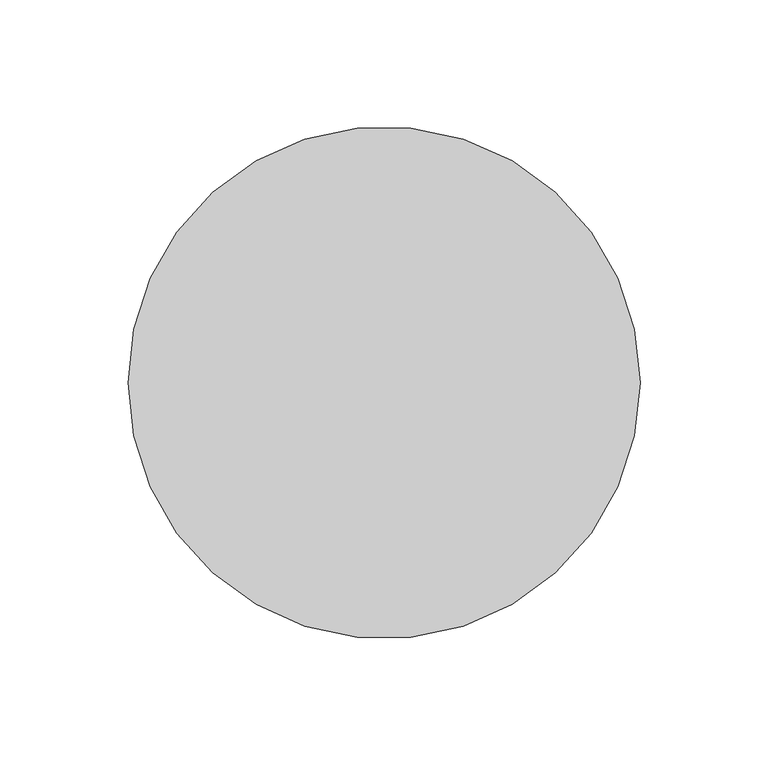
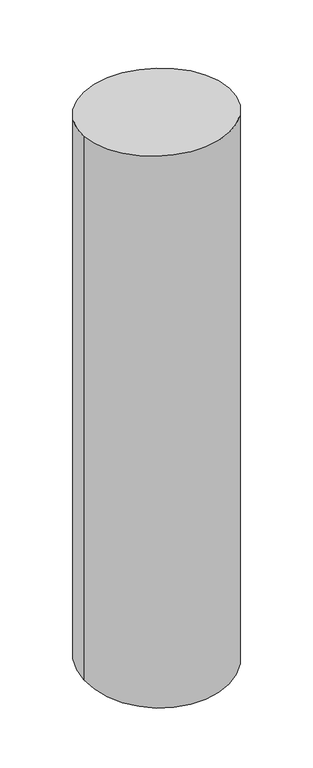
"""IFC4 building model written with IfcOpenShell, lengths in millimetres: member geometry, 矩形竖梃 : 圆瓦."""

import ifcopenshell
import ifcopenshell.guid

model = None  # the IFC model being written
_history = None  # IfcOwnerHistory: only IFC2X3 demands one
_inside = {}  # id of a spatial element -> (the spatial element, [elements in it])
_under = {}  # id of a project, library or spatial element -> (it, [spatial elements below it])
_declared = {}  # id of a project -> (the project, [libraries it declares])
_typed = {}  # id of a type object -> (the type object, [elements of that type])
_made_of = {}  # id of a material, layer set ... -> (it, [elements and type objects made of it])


def new_model(schema):
    """Start an empty IFC model of exactly this schema.

    Asked for "IFC4X3", IfcOpenShell would pick the latest addendum, in which some entities
    have other attributes; the version numbers below select the first issue.
    IFC2X3 requires an IfcOwnerHistory on every rooted entity: one is made here for all.
    """
    global model, _history
    if schema == "IFC4X3":
        model = ifcopenshell.file(schema_version=(4, 3, 0, 0))
    else:
        model = ifcopenshell.file(schema=schema)
    _inside.clear()
    _under.clear()
    _declared.clear()
    _typed.clear()
    _made_of.clear()
    _history = None
    if model.schema == "IFC2X3":
        org = make("IfcOrganization", Name="unknown")
        user = make(
            "IfcPersonAndOrganization",
            ThePerson=make("IfcPerson", FamilyName="unknown"),
            TheOrganization=org,
        )
        app = make(
            "IfcApplication",
            ApplicationDeveloper=org,
            Version="unknown",
            ApplicationFullName="unknown",
            ApplicationIdentifier="unknown",
        )
        _history = make(
            "IfcOwnerHistory",
            OwningUser=user,
            OwningApplication=app,
            ChangeAction="ADDED",
            CreationDate=0,
        )
    return model


def make(cls, **values):
    """One entity of the class cls with the attributes given. An attribute that is None is left unset."""
    return model.create_entity(
        cls, **{name: value for name, value in values.items() if value is not None}
    )


def rooted(cls, **values):
    """An entity with a GlobalId (a new one), such as an element, a storey or a relation."""
    return make(cls, GlobalId=ifcopenshell.guid.new(), OwnerHistory=_history, **values)


def si_unit(unit_type, name, prefix=None):
    """IfcSIUnit, for example si_unit("LENGTHUNIT", "METRE", prefix="MILLI")."""
    return make("IfcSIUnit", UnitType=unit_type, Prefix=prefix, Name=name)


def assignment(units):
    """IfcUnitAssignment: the units of a project."""
    return None if units is None else make("IfcUnitAssignment", Units=units)


def point(xyz):
    """IfcCartesianPoint."""
    return None if xyz is None else make("IfcCartesianPoint", Coordinates=xyz)


def direction(xyz):
    """IfcDirection."""
    return None if xyz is None else make("IfcDirection", DirectionRatios=xyz)


def frame(location, z_axis=None, x_axis=None):
    """IfcAxis2Placement3D, a coordinate frame: its origin and axes. An axis left out is left unset."""
    return make(
        "IfcAxis2Placement3D",
        Location=point(location),
        Axis=direction(z_axis),
        RefDirection=direction(x_axis),
    )


def origin():
    """The frame at (0, 0, 0) with its axes left unset."""
    return frame((0.0, 0.0, 0.0))


def origin_with_axes():
    """The frame at (0, 0, 0) with the z axis (0, 0, 1) and the x axis (1, 0, 0) written out."""
    return frame((0.0, 0.0, 0.0), z_axis=(0.0, 0.0, 1.0), x_axis=(1.0, 0.0, 0.0))


def place(relative_to, where):
    """IfcLocalPlacement: puts the frame where relative to a parent placement (None: the world)."""
    return make(
        "IfcLocalPlacement", PlacementRelTo=relative_to, RelativePlacement=where
    )


def context(
    kind, dimensions, precision=None, world=None, true_north=None, identifier=None
):
    """IfcGeometricRepresentationContext, for example the 3D "Model" context."""
    return make(
        "IfcGeometricRepresentationContext",
        ContextIdentifier=identifier,
        ContextType=kind,
        CoordinateSpaceDimension=dimensions,
        Precision=precision,
        WorldCoordinateSystem=world,
        TrueNorth=true_north,
    )


def project(units=None, contexts=None):
    """IfcProject with its units and contexts."""
    return rooted(
        "IfcProject",
        Name="project",
        RepresentationContexts=contexts,
        UnitsInContext=assignment(units),
    )


def spatial(cls, under=None, at=None, **own):
    """A site, building, storey or space (cls), placed at a placement, below another one or the project."""
    s = rooted(cls, ObjectPlacement=at, **own)
    if under is not None:
        _under.setdefault(under.id(), (under, []))[1].append(s)
    return s


def ellipse_curve(where, semi_axis1, semi_axis2):
    """IfcEllipse in the frame where."""
    return make(
        "IfcEllipse", Position=where, SemiAxis1=semi_axis1, SemiAxis2=semi_axis2
    )


def shape(context_of_items, identifier, shape_type, items):
    """IfcShapeRepresentation: the items that make up one representation, for example the "Body"."""
    return make(
        "IfcShapeRepresentation",
        ContextOfItems=context_of_items,
        RepresentationIdentifier=identifier,
        RepresentationType=shape_type,
        Items=items,
    )


def source(mapping_origin, context_of_items, identifier, shape_type, items):
    """IfcRepresentationMap: a shape defined once, which mapped items show again and again."""
    return make(
        "IfcRepresentationMap",
        MappingOrigin=mapping_origin,
        MappedRepresentation=shape(context_of_items, identifier, shape_type, items),
    )


def transform(
    local_origin,
    x_axis=None,
    y_axis=None,
    z_axis=None,
    scale=None,
    scale2=None,
    scale3=None,
    uniform=True,
):
    """IfcCartesianTransformationOperator3D, or its non-uniform kind. x_axis, y_axis, z_axis: its Axis1, 2, 3."""
    if uniform:
        return make(
            "IfcCartesianTransformationOperator3D",
            Axis1=direction(x_axis),
            Axis2=direction(y_axis),
            LocalOrigin=point(local_origin),
            Scale=scale,
            Axis3=direction(z_axis),
        )
    return make(
        "IfcCartesianTransformationOperator3DnonUniform",
        Axis1=direction(x_axis),
        Axis2=direction(y_axis),
        LocalOrigin=point(local_origin),
        Scale=scale,
        Axis3=direction(z_axis),
        Scale2=scale2,
        Scale3=scale3,
    )


def mapped(mapping_source, mapping_target):
    """IfcMappedItem: shows the shape of a source again, moved by a transform."""
    return make(
        "IfcMappedItem", MappingSource=mapping_source, MappingTarget=mapping_target
    )


def made_of(thing, what):
    """Note that an element or type object is made of a material, layer set ...; save() writes the relation."""
    if what is not None:
        _made_of.setdefault(what.id(), (what, []))[1].append(thing)
    return thing


def element(
    cls,
    number,
    at=None,
    inside=None,
    cuts=None,
    type_object=None,
    material=None,
    context=None,
    identifier="Body",
    shape_type=None,
    held_by="IfcProductDefinitionShape",
    body=None,
    shapes=None,
    **own,
):
    """One element of the class cls, such as IfcWall. Its Tag is "e" and its number.

    at: its placement. inside: the storey or other place that contains it. cuts: it is an
    opening in that element (IfcRelVoidsElement). A single representation is given by context,
    identifier, shape_type and body (its items); several are given by shapes. held_by: the class
    of the entity that holds the representations. save() writes the other relations.
    """
    e = rooted(cls, Tag="e%d" % number, ObjectPlacement=at, **own)
    if body is not None:
        shapes = [shape(context, identifier, shape_type, body)]
    if shapes is not None:
        e.Representation = make(held_by, Representations=shapes)
    if inside is not None:
        _inside.setdefault(inside.id(), (inside, []))[1].append(e)
    if cuts is not None:
        rooted(
            "IfcRelVoidsElement", RelatingBuildingElement=cuts, RelatedOpeningElement=e
        )
    if type_object is not None:
        _typed.setdefault(type_object.id(), (type_object, []))[1].append(e)
    return made_of(e, material)


def aggregate(whole, parts):
    """IfcRelAggregates: a whole, such as a stair, and the parts it consists of."""
    return rooted("IfcRelAggregates", RelatingObject=whole, RelatedObjects=parts)


def save(model, path):
    """Write the relations noted so far, then the file.

    IfcRelAggregates (storeys below a building ...), IfcRelContainedInSpatialStructure (elements
    in a storey), IfcRelDefinesByType, IfcRelAssociatesMaterial and IfcRelDeclares: one each for
    every whole, place, type object, material and project.
    """
    for whole, parts in _under.values():
        aggregate(whole, parts)
    for where, things in _inside.values():
        rooted(
            "IfcRelContainedInSpatialStructure",
            RelatedElements=things,
            RelatingStructure=where,
        )
    for kind, things in _typed.values():
        rooted("IfcRelDefinesByType", RelatedObjects=things, RelatingType=kind)
    for what, things in _made_of.values():
        rooted("IfcRelAssociatesMaterial", RelatedObjects=things, RelatingMaterial=what)
    for by, libraries in _declared.values():
        rooted("IfcRelDeclares", RelatingContext=by, RelatedDefinitions=libraries)
    model.write(path)


def plane_surface(at):
    """IfcPlane: the flat surface through the origin of the frame at, square to its z axis."""
    return make("IfcPlane", Position=at)


def cylinder_surface(at, radius):
    """IfcCylindricalSurface: all points at the distance radius from the z axis of the frame at."""
    return make("IfcCylindricalSurface", Position=at, Radius=radius)


def advanced_brep(points, edges, surfaces, faces):
    """IfcAdvancedBrep: a solid bounded by faces that lie on surfaces and meet in shared edges.

    An edge is (start, end): straight between two places in points (the first is 0);
    or (start, end, curve); or (start, end, curve, False) where it runs against its curve.
    A face is (place in surfaces, loops), or (place, loops, False) where it looks against
    its surface's normal. A loop lists edges by number (the first is 1), with a minus sign
    where the edge is run from its end to its start. The first loop is the outer one.
    """
    corners = [point(p) for p in points]
    vertices = [make("IfcVertexPoint", VertexGeometry=c) for c in corners]
    made = []
    for start, end, *more in edges:
        made.append(
            make(
                "IfcEdgeCurve",
                EdgeStart=vertices[start],
                EdgeEnd=vertices[end],
                EdgeGeometry=more[0] if more else make("IfcPolyline", Points=[corners[start], corners[end]]),
                SameSense=more[1] if len(more) > 1 else True,
            )
        )
    hull = []
    for where, loops, *sense in faces:
        bounds = []
        for j, loop in enumerate(loops):
            ring = [make("IfcOrientedEdge", EdgeElement=made[abs(k) - 1], Orientation=k > 0) for k in loop]
            bounds.append(
                make(
                    "IfcFaceOuterBound" if j == 0 else "IfcFaceBound",
                    Bound=make("IfcEdgeLoop", EdgeList=ring),
                    Orientation=True,
                )
            )
        hull.append(make("IfcAdvancedFace", Bounds=bounds, FaceSurface=surfaces[where], SameSense=sense[0] if sense else True))
    return make("IfcAdvancedBrep", Outer=make("IfcClosedShell", CfsFaces=hull))


def member_3c0b60bf(model_context):
    return source(origin(), model_context, "Body", "AdvancedBrep", [
        advanced_brep(
        [(-100.0, 0.0, 0.0), (100.0, 0.0, 0.0), (100.0, 0.0, -790.1124317), (-100.0, 0.0, -790.1124317)],
        [
            (0, 1, ellipse_curve(frame((0.0, 0.0, 0.0), z_axis=(0.0, -0.06767279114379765, -0.9977075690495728), x_axis=(0.0, -0.9977075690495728, 0.06767279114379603)), 100.2297698, 100.0)),
            (1, 2),
            (2, 3, ellipse_curve(frame((0.0, 0.0, -790.1124317), z_axis=(0.0, -0.067672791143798, 0.9977075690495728), x_axis=(0.0, 0.9977075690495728, 0.0676727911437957)), 100.2297698, 100.0)),
            (3, 0),
            (1, 0, ellipse_curve(frame((0.0, 0.0, 0.0), z_axis=(0.0, -0.06767279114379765, -0.9977075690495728), x_axis=(0.0, -0.9977075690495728, 0.06767279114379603)), 100.2297698, 100.0)),
            (3, 2, ellipse_curve(frame((0.0, 0.0, -790.1124317), z_axis=(0.0, -0.067672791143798, 0.9977075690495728), x_axis=(0.0, 0.9977075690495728, 0.0676727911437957)), 100.2297698, 100.0)),
        ],
        [
            cylinder_surface(origin_with_axes(), 100.0),
            plane_surface(frame((-304.8, 0.0, 0.0), z_axis=(0.0, 0.06767279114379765, 0.9977075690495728), x_axis=(0.0, 0.9977075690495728, -0.06767279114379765))),
            plane_surface(frame((-304.8, 0.0, -790.1124317), z_axis=(0.0, 0.067672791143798, -0.9977075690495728), x_axis=(0.0, 0.9977075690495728, 0.067672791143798))),
        ],
        [
            (0, [[1, 2, 3, 4]]),
            (0, [[5, -4, 6, -2]]),
            (1, [[-1, -5]]),
            (2, [[-6, -3]]),
        ],
    ),
    ])


if __name__ == "__main__":
    model = new_model("IFC4")
    model_context = context("Model", 3, world=origin())
    ifc_project = project(units=[si_unit("LENGTHUNIT", "METRE", prefix="MILLI")], contexts=[model_context])
    site = spatial("IfcSite", under=ifc_project)
    building = spatial("IfcBuilding", under=site)
    placement = place(None, origin())
    member_shape = member_3c0b60bf(model_context)
    element("IfcMember", 1, ObjectType="矩形竖梃 : 圆瓦", at=placement, inside=building, context=model_context, shape_type="MappedRepresentation", body=[
        mapped(member_shape, transform((0.0, 0.0, 0.0), x_axis=(1.0, 0.0, 0.0), y_axis=(0.0, 1.0, 0.0), z_axis=(0.0, 0.0, 1.0))),
    ])
    save(model, "model.ifc")
